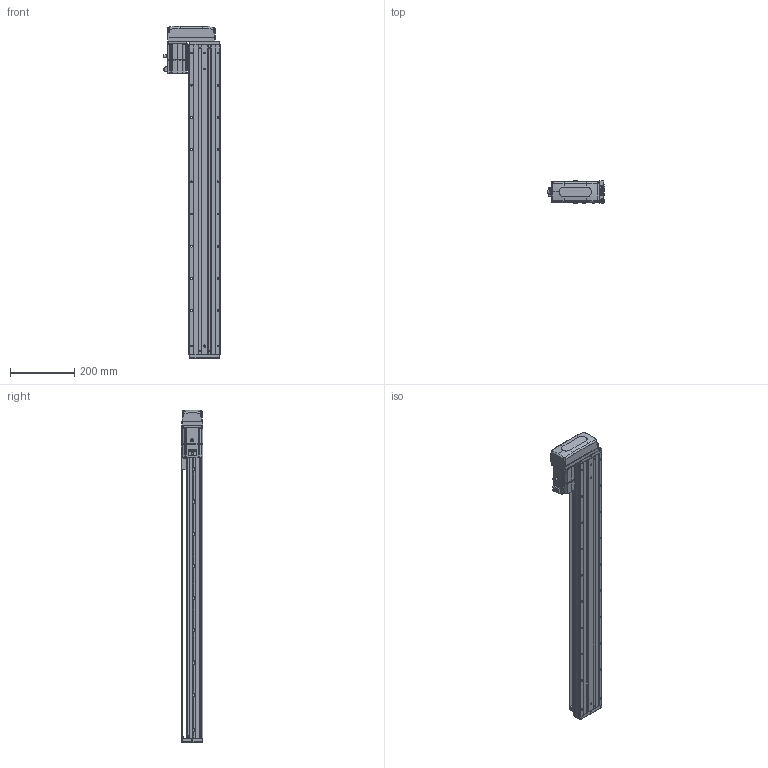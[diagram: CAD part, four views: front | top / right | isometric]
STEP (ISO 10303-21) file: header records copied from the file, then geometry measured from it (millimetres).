
FILE_DESCRIPTION (( 'STEP AP203' ), '1' );
FILE_NAME ('KTHA100-800-BR-M20-C4L.step', '2022-04-26T02:01:09', ( '微软用户' ), ( '微软中国' ), 'SwSTEP 2.0', 'SolidWorks 2020', '' );
FILE_SCHEMA (( 'CONFIG_CONTROL_DESIGN' ));
Length unit declared in the file: millimetre
Products named in the file (17): KTHA100-002; GBT77-2000 M3×3; CTHA86-033; KTHA100-004; GBT 70.1-M3℅6; KTHA100-800-BR-M20-C4L; KTHA100-005; GBT70.1 M5℅16; GB¨uT 70.2-M3¡Á5_M3¡Á6; CTHA60-016; EE_SX911P_R; GBT 70.3-M3℅6; CTHA60-017; _X2_4E0983F1_X0_200W_1; KTHA100-001_960; CTHA60-021; CTHA86-015-1_CTHA86-015-2
Assembly tree (57 placements, depth 2):
  KTHA100-800-BR-M20-C4L
    KTHA100-001_960
    KTHA100-002
    KTHA100-004
    KTHA100-005
    GB¨uT 70.2-M3¡Á5_M3¡Á6  x6
    EE_SX911P_R  x3
    CTHA60-017  x3
    CTHA60-021  x2
    GBT77-2000 M3×3  x6
    GBT 70.1-M3℅6  x10
    GBT70.1 M5℅16  x14
    CTHA60-016  x2
    GBT 70.3-M3℅6  x4
    _X2_4E0983F1_X0_200W_1
    CTHA86-015-1_CTHA86-015-2
    CTHA86-033
Bounding box: 178.52 x 68 x 1031 mm (x, y, z)
Volume: 4406233.1 mm3; surface area: 715286.9 mm2
Topology: 60 solids, 60 shells, 2477 faces, 5945 edges, 3688 vertices
Faces by surface type: plane 1268, cylinder 689, cone 313, torus 116, bspline 75, sphere 16
Entity records: 43240 total; most frequent: CARTESIAN_POINT 8672, DIRECTION 6712, ORIENTED_EDGE 6502, EDGE_CURVE 3251, AXIS2_PLACEMENT_3D 2336, VERTEX_POINT 2048, LINE 2040, VECTOR 2040
